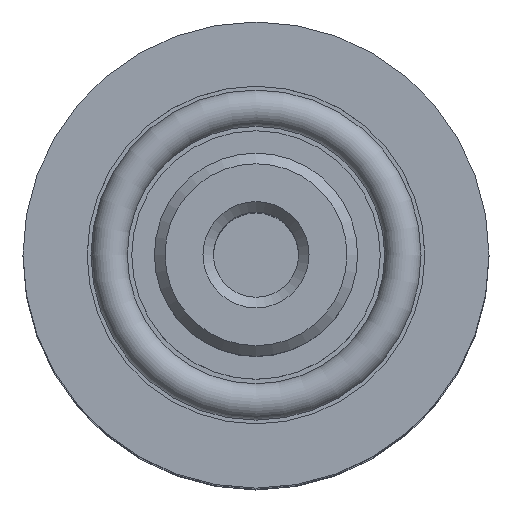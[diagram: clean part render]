
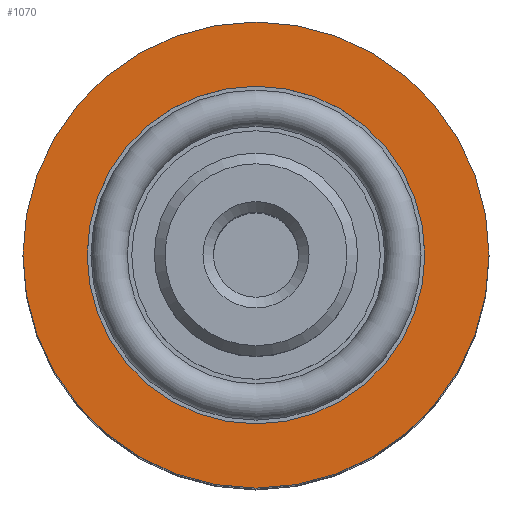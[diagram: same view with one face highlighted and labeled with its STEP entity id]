
A CAD part, top view. The second image highlights one B-rep face of the part: STEP entity #1070.
In plain terms, the highlighted planar face has unit normal (0, 0, 1).
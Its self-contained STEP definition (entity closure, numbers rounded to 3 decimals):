
#927=CARTESIAN_POINT('',(7.95,0.,1.0));
#928=VERTEX_POINT('',#927);
#929=CARTESIAN_POINT('',(0.0,0.0,1.0));
#930=DIRECTION('',(0.0,0.0,-1.0));
#931=DIRECTION('',(-1.0,0.0,0.0));
#932=AXIS2_PLACEMENT_3D('',#929,#930,#931);
#933=CIRCLE('',#932,7.95);
#934=EDGE_CURVE('',#928,#928,#933,.T.);
#1044=CARTESIAN_POINT('',(10.975,0.,1.0));
#1045=VERTEX_POINT('',#1044);
#1046=CARTESIAN_POINT('',(0.0,0.0,1.0));
#1047=DIRECTION('',(0.0,0.0,-1.0));
#1048=DIRECTION('',(-1.0,0.0,0.0));
#1049=AXIS2_PLACEMENT_3D('',#1046,#1047,#1048);
#1050=CIRCLE('',#1049,10.975);
#1051=EDGE_CURVE('',#1045,#1045,#1050,.T.);
#1059=CARTESIAN_POINT('',(0.0,0.0,1.0));
#1060=DIRECTION('',(0.0,0.0,-1.0));
#1061=DIRECTION('',(-1.0,0.0,0.0));
#1062=AXIS2_PLACEMENT_3D('',#1059,#1060,#1061);
#1063=PLANE('',#1062);
#1064=ORIENTED_EDGE('',*,*,#1051,.F.);
#1065=EDGE_LOOP('',(#1064));
#1066=FACE_OUTER_BOUND('',#1065,.T.);
#1067=ORIENTED_EDGE('',*,*,#934,.T.);
#1068=EDGE_LOOP('',(#1067));
#1069=FACE_BOUND('',#1068,.T.);
#1070=ADVANCED_FACE('',(#1066,#1069),#1063,.F.);
